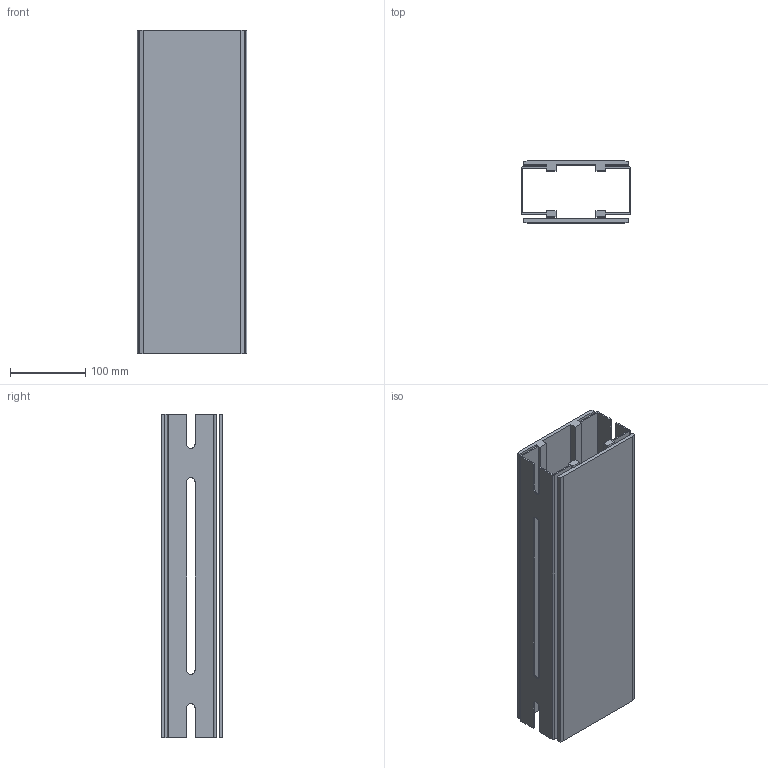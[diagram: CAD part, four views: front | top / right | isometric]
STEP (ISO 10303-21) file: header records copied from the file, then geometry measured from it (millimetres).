
FILE_DESCRIPTION((''),'2;1');
FILE_NAME('C:\Vault Klient\Projekt\Koncept konstruktion\Serie 540 Balk\540-1000.stp','2010-11-24T08:36:33',('Mathias'),(''),'Autodesk Inventor 2011','Autodesk Inventor 2011','');
FILE_SCHEMA(('AUTOMOTIVE_DESIGN { 1 0 10303 214 1 1 1 1 }'));
Length unit declared in the file: millimetre
Products named in the file (1): 540-1000
Bounding box: 146 x 82 x 430 mm (x, y, z)
Volume: 971295.9 mm3; surface area: 502539.2 mm2
Topology: 2 solids, 2 shells, 111 faces, 306 edges, 204 vertices
Faces by surface type: plane 85, bspline 14, cylinder 12
Entity records: 3650 total; most frequent: CARTESIAN_POINT 816, ORIENTED_EDGE 612, DIRECTION 498, EDGE_CURVE 306, VECTOR 254, LINE 254, VERTEX_POINT 204, AXIS2_PLACEMENT_3D 122
